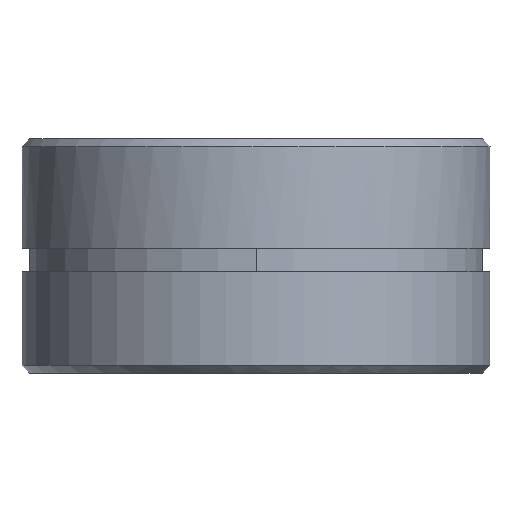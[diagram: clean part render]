
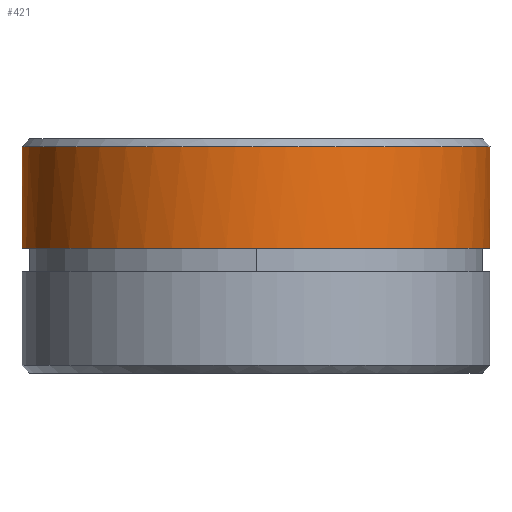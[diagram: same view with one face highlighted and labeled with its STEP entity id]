
A CAD part, left-side view. The second image highlights one B-rep face of the part: STEP entity #421.
In plain terms, the highlighted free-form (B-spline) face has degree [3, 1] with [7, 2] control points.
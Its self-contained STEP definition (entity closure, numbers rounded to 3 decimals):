
#336=CARTESIAN_POINT('',(20.996,21.429,-14.0));
#337=VERTEX_POINT('',#336);
#345=CARTESIAN_POINT('',(20.996,21.429,-1.));
#346=VERTEX_POINT('',#345);
#347=CARTESIAN_POINT('',(20.996,21.429,-1.));
#348=DIRECTION('',(0.,0.,-1.0));
#349=VECTOR('',#348,1.0);
#350=LINE('',#347,#349);
#351=EDGE_CURVE('',#346,#337,#350,.T.);
#373=ORIENTED_EDGE('',*,*,#351,.T.);
#374=CARTESIAN_POINT('',(20.996,-21.429,-14.0));
#375=VERTEX_POINT('',#374);
#376=CARTESIAN_POINT('',(20.996,21.429,-14.0));
#377=CARTESIAN_POINT('',(-1.267,43.241,-14.0));
#378=CARTESIAN_POINT('',(-30.,31.167,-14.0));
#379=CARTESIAN_POINT('',(-30.0,-0.002,-14.0));
#380=CARTESIAN_POINT('',(-29.997,-31.168,-14.0));
#381=CARTESIAN_POINT('',(-1.263,-43.237,-14.0));
#382=CARTESIAN_POINT('',(20.996,-21.429,-14.0));
#383=(BOUNDED_CURVE() B_SPLINE_CURVE(3,(#376,#377,#378,#379,#380,#381,#382),.UNSPECIFIED.,.F.,.U.)
  B_SPLINE_CURVE_WITH_KNOTS((4,2,1,4),(0.0,0.5,0.5,1.0),.UNSPECIFIED.)
  CURVE() GEOMETRIC_REPRESENTATION_ITEM() RATIONAL_B_SPLINE_CURVE((1.0,0.592,0.592,1.,0.592,0.592,1.0))  REPRESENTATION_ITEM('') );
#384=EDGE_CURVE('',#337,#375,#383,.T.);
#385=ORIENTED_EDGE('',*,*,#384,.T.);
#386=CARTESIAN_POINT('',(20.996,-21.429,-1.0));
#387=VERTEX_POINT('',#386);
#388=CARTESIAN_POINT('',(20.996,-21.429,-14.0));
#389=DIRECTION('',(0.,0.,1.0));
#390=VECTOR('',#389,1.0);
#391=LINE('',#388,#390);
#392=EDGE_CURVE('',#375,#387,#391,.T.);
#393=ORIENTED_EDGE('',*,*,#392,.T.);
#394=CARTESIAN_POINT('',(20.996,-21.429,-1.0));
#395=CARTESIAN_POINT('',(-1.263,-43.237,-1.0));
#396=CARTESIAN_POINT('',(-29.997,-31.168,-1.0));
#397=CARTESIAN_POINT('',(-30.0,-0.002,-1.0));
#398=CARTESIAN_POINT('',(-30.,31.167,-1.0));
#399=CARTESIAN_POINT('',(-1.267,43.241,-1.0));
#400=CARTESIAN_POINT('',(20.996,21.429,-1.));
#401=(BOUNDED_CURVE() B_SPLINE_CURVE(3,(#394,#395,#396,#397,#398,#399,#400),.UNSPECIFIED.,.F.,.U.)
  B_SPLINE_CURVE_WITH_KNOTS((4,1,2,4),(0.0,0.5,0.5,1.0),.UNSPECIFIED.)
  CURVE() GEOMETRIC_REPRESENTATION_ITEM() RATIONAL_B_SPLINE_CURVE((1.0,0.592,0.592,1.,0.592,0.592,1.0))  REPRESENTATION_ITEM('') );
#402=EDGE_CURVE('',#387,#346,#401,.T.);
#403=ORIENTED_EDGE('',*,*,#402,.T.);
#404=EDGE_LOOP('',(#373,#385,#393,#403));
#405=FACE_OUTER_BOUND('',#404,.T.);
#406=CARTESIAN_POINT('',(20.996,21.429,-14.0));
#407=CARTESIAN_POINT('',(20.996,21.429,-1.));
#408=CARTESIAN_POINT('',(-1.267,43.241,-14.0));
#409=CARTESIAN_POINT('',(-1.267,43.241,-1.));
#410=CARTESIAN_POINT('',(-30.,31.167,-14.0));
#411=CARTESIAN_POINT('',(-30.,31.167,-1.));
#412=CARTESIAN_POINT('',(-30.0,-0.002,-14.0));
#413=CARTESIAN_POINT('',(-30.0,-0.002,-1.));
#414=CARTESIAN_POINT('',(-29.997,-31.168,-14.0));
#415=CARTESIAN_POINT('',(-29.997,-31.168,-1.));
#416=CARTESIAN_POINT('',(-1.263,-43.237,-14.0));
#417=CARTESIAN_POINT('',(-1.263,-43.237,-1.));
#418=CARTESIAN_POINT('',(20.996,-21.429,-14.0));
#419=CARTESIAN_POINT('',(20.996,-21.429,-1.));
#420=( BOUNDED_SURFACE() B_SPLINE_SURFACE(3,1,((#406,#407),(#408,#409),(#410,#411),(#412,#413),(#414,#415),(#416,#417),(#418,#419)),.UNSPECIFIED.,.U.,.U.,.U.)
  B_SPLINE_SURFACE_WITH_KNOTS((4,2,1,4),(2,2),(0.0,0.5,0.5,1.0),(0.0,1.0),.UNSPECIFIED.)
  GEOMETRIC_REPRESENTATION_ITEM() RATIONAL_B_SPLINE_SURFACE(((1.0,1.0),(0.592,0.592),(0.592,0.592),(1.,1.),(0.592,0.592),(0.592,0.592),(1.0,1.0)))
  REPRESENTATION_ITEM('') SURFACE() );
#421=ADVANCED_FACE('',(#405),#420,.T.);
